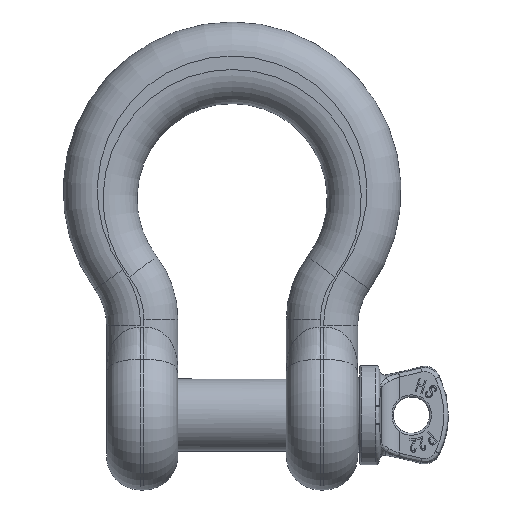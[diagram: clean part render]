
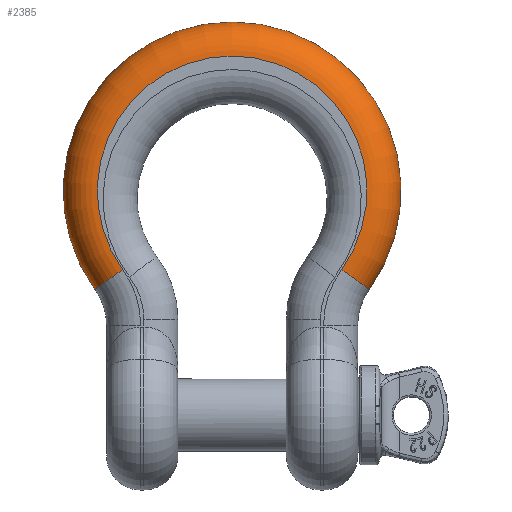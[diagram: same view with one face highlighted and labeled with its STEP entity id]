
A CAD part, top view. The second image highlights one B-rep face of the part: STEP entity #2385.
In plain terms, the highlighted toroidal (fillet/blend) face has major radius 130.5 mm and minor radius 33 mm.
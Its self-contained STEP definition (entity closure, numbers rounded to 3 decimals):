
#658=FACE_OUTER_BOUND('',#3243,.T.);
#2385=ADVANCED_FACE('',(#658),#2894,.T.);
#2894=TOROIDAL_SURFACE('',#10134,130.5,33.);
#2970=CIRCLE('',#10071,130.5);
#2976=CIRCLE('',#10080,163.5);
#3002=CIRCLE('',#10131,33.);
#3003=CIRCLE('',#10133,33.);
#3243=EDGE_LOOP('',(#4268,#4269,#4270,#4271));
#4268=ORIENTED_EDGE('',*,*,#8063,.F.);
#4269=ORIENTED_EDGE('',*,*,#8010,.F.);
#4270=ORIENTED_EDGE('',*,*,#8064,.T.);
#4271=ORIENTED_EDGE('',*,*,#7999,.F.);
#7008=VERTEX_POINT('',#14273);
#7009=VERTEX_POINT('',#14275);
#7015=VERTEX_POINT('',#14291);
#7016=VERTEX_POINT('',#14295);
#7999=EDGE_CURVE('',#7008,#7009,#2970,.T.);
#8010=EDGE_CURVE('',#7016,#7015,#2976,.T.);
#8063=EDGE_CURVE('',#7015,#7008,#3002,.T.);
#8064=EDGE_CURVE('',#7016,#7009,#3003,.T.);
#10071=AXIS2_PLACEMENT_3D('',#14274,#10768,#10769);
#10080=AXIS2_PLACEMENT_3D('',#14296,#10791,#10792);
#10131=AXIS2_PLACEMENT_3D('',#14543,#10908,#10909);
#10133=AXIS2_PLACEMENT_3D('',#14545,#10912,#10913);
#10134=AXIS2_PLACEMENT_3D('',#14546,#10914,#10915);
#10768=DIRECTION('',(0.,0.,1.));
#10769=DIRECTION('',(-1.,0.,0.));
#10791=DIRECTION('',(0.,0.,-1.));
#10792=DIRECTION('',(-1.,0.,0.));
#10908=DIRECTION('',(-0.584,-0.812,0.));
#10909=DIRECTION('',(-0.812,0.584,0.));
#10912=DIRECTION('',(-0.584,0.812,0.));
#10913=DIRECTION('',(0.812,0.584,0.));
#10914=DIRECTION('',(0.,0.,-1.));
#10915=DIRECTION('',(-1.,0.,0.));
#14273=CARTESIAN_POINT('',(132.977,-6.153,34.5));
#14274=CARTESIAN_POINT('',(27.,70.,34.5));
#14275=CARTESIAN_POINT('',(-78.977,-6.153,34.5));
#14291=CARTESIAN_POINT('',(159.775,-25.41,1.5));
#14295=CARTESIAN_POINT('',(-105.775,-25.41,1.5));
#14296=CARTESIAN_POINT('',(27.,70.,1.5));
#14543=CARTESIAN_POINT('',(132.977,-6.153,1.5));
#14545=CARTESIAN_POINT('',(-78.977,-6.153,1.5));
#14546=CARTESIAN_POINT('',(27.,70.,1.5));
